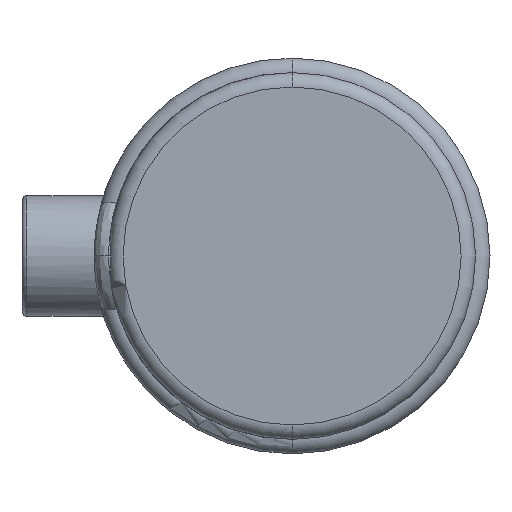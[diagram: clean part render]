
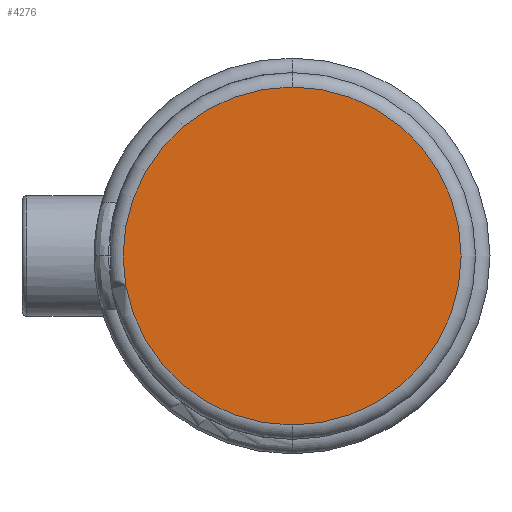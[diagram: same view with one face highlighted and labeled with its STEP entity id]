
A CAD part, left-side view. The second image highlights one B-rep face of the part: STEP entity #4276.
In plain terms, the highlighted planar face has unit normal (-1, 0, 0).
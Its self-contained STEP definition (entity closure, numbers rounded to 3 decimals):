
#89 = DIRECTION ( 'NONE',  ( -1., 0., 0. ) ) ;
#391 = EDGE_LOOP ( 'NONE', ( #891, #455 ) ) ;
#455 = ORIENTED_EDGE ( 'NONE', *, *, #4760, .T. ) ;
#828 = AXIS2_PLACEMENT_3D ( 'NONE', #1788, #4843, #2230 ) ;
#891 = ORIENTED_EDGE ( 'NONE', *, *, #5677, .T. ) ;
#937 = CIRCLE ( 'NONE', #828, 35.1 ) ;
#1208 = AXIS2_PLACEMENT_3D ( 'NONE', #2822, #89, #3268 ) ;
#1461 = VERTEX_POINT ( 'NONE', #2555 ) ;
#1491 = DIRECTION ( 'NONE',  ( 0., 0., 1. ) ) ;
#1567 = CARTESIAN_POINT ( 'NONE',  ( 0., 0., -35.1 ) ) ;
#1788 = CARTESIAN_POINT ( 'NONE',  ( 0., 0., 0. ) ) ;
#1862 = AXIS2_PLACEMENT_3D ( 'NONE', #3252, #4136, #1491 ) ;
#2230 = DIRECTION ( 'NONE',  ( 0., 0., 1. ) ) ;
#2555 = CARTESIAN_POINT ( 'NONE',  ( 0., 0., 35.1 ) ) ;
#2807 = PLANE ( 'NONE',  #1862 ) ;
#2822 = CARTESIAN_POINT ( 'NONE',  ( 0., 0., 0. ) ) ;
#3079 = VERTEX_POINT ( 'NONE', #1567 ) ;
#3252 = CARTESIAN_POINT ( 'NONE',  ( 0., 0., 0. ) ) ;
#3268 = DIRECTION ( 'NONE',  ( 0., 0., 1. ) ) ;
#4136 = DIRECTION ( 'NONE',  ( -1., 0., 0. ) ) ;
#4276 = ADVANCED_FACE ( 'NONE', ( #5426 ), #2807, .T. ) ;
#4760 = EDGE_CURVE ( 'NONE', #3079, #1461, #937, .T. ) ;
#4843 = DIRECTION ( 'NONE',  ( -1., 0., 0. ) ) ;
#5159 = CIRCLE ( 'NONE', #1208, 35.1 ) ;
#5426 = FACE_OUTER_BOUND ( 'NONE', #391, .T. ) ;
#5677 = EDGE_CURVE ( 'NONE', #1461, #3079, #5159, .T. ) ;
